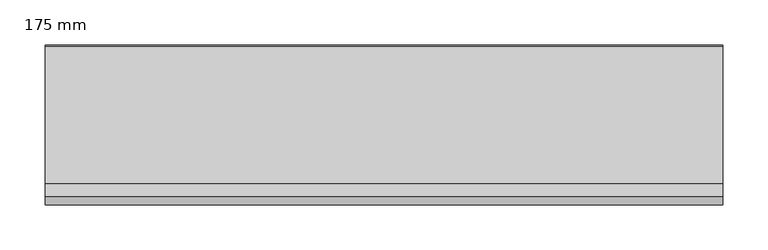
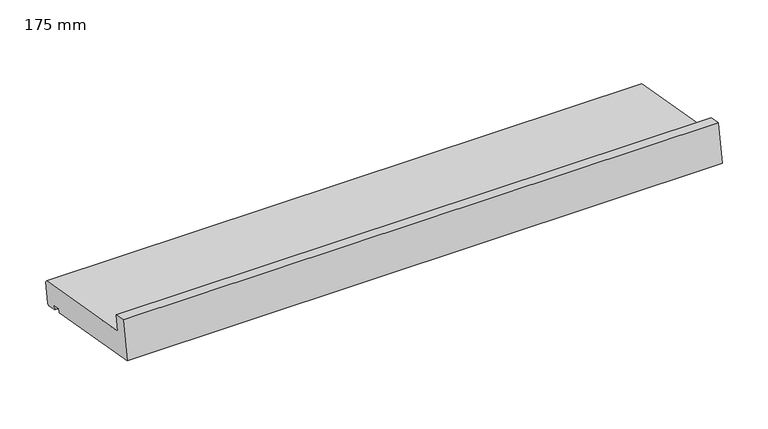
"""IFC4 building model written with IfcOpenShell, lengths in millimetres: proxy geometry, 400_35_NS_raamdorpel_natuursteen_klik : 175 mm."""

from ifc_helpers import new_model, si_unit, frame, origin, place, context, project, spatial, polyline, outline, extrude, source, transform, mapped, element, save


def proxy_175_mm_b3279f06(model_context):
    return source(origin(), model_context, "Body", "SweptSolid", [
        extrude(outline(polyline([(175.5811866, -0.4969021), (177.2035058, -2.813814), (172.6886531, -28.4188156), (170.3717413, -30.0411347), (157.5692405, -27.7837084), (158.4374814, -22.8596697), (148.5894038, -21.1231879), (147.721163, -26.0472267), (0.0, 0.0), (8.6824089, 49.2403877), (23.4545252, 46.635665), (19.9815616, 26.9395099), (175.5811866, -0.4969021)])), frame((-375.0, 0.0, 0.0), z_axis=(1.0, 0.0, 0.0), x_axis=(0.0, 1.0, 0.0)), (0.0, 0.0, 1.0), 750.0),
    ])


if __name__ == "__main__":
    model = new_model("IFC4")
    model_context = context("Model", 3, world=origin())
    ifc_project = project(units=[si_unit("LENGTHUNIT", "METRE", prefix="MILLI")], contexts=[model_context])
    site = spatial("IfcSite", under=ifc_project)
    building = spatial("IfcBuilding", under=site)
    placement = place(None, origin())
    proxy_175_mm_shape = proxy_175_mm_b3279f06(model_context)
    element("IfcBuildingElementProxy", 1, Name="400_35_NS_raamdorpel_natuursteen_klik : 175 mm", ObjectType="400_35_NS_raamdorpel_natuursteen_klik : 175 mm", at=placement, inside=building, context=model_context, shape_type="MappedRepresentation", body=[
        mapped(proxy_175_mm_shape, transform((0.0, 0.0, 0.0), x_axis=(1.0, 0.0, 0.0), y_axis=(0.0, 1.0, 0.0), z_axis=(0.0, 0.0, 1.0))),
    ])
    save(model, "model.ifc")
